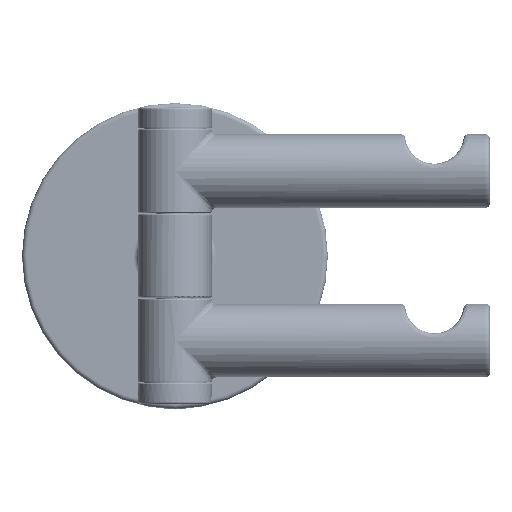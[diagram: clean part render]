
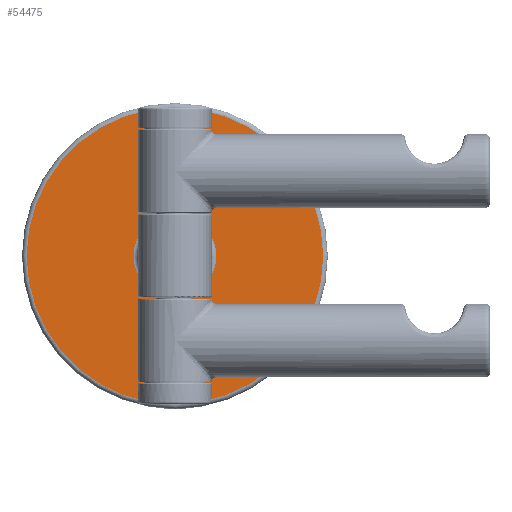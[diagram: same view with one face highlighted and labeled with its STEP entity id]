
A CAD part, top view. The second image highlights one B-rep face of the part: STEP entity #54475.
In plain terms, the highlighted planar face has unit normal (0, 0, 1) as drawn and (1, 0, 0) by its records, which use the part's own axes.
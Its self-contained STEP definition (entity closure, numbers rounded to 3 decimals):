
#436 = CARTESIAN_POINT ( 'NONE',  ( 8., 32., 0. ) ) ;
#750 = CIRCLE ( 'NONE', #16250, 8.94 ) ;
#1706 = AXIS2_PLACEMENT_3D ( 'NONE', #46402, #37018, #47439 ) ;
#3074 = VERTEX_POINT ( 'NONE', #7720 ) ;
#3839 = CARTESIAN_POINT ( 'NONE',  ( 8., 0., 0. ) ) ;
#5095 = CARTESIAN_POINT ( 'NONE',  ( 8., 8.94, 0. ) ) ;
#6585 = EDGE_LOOP ( 'NONE', ( #31163, #36456 ) ) ;
#7720 = CARTESIAN_POINT ( 'NONE',  ( 8., -8.94, 0. ) ) ;
#8208 = CARTESIAN_POINT ( 'NONE',  ( 8., 0., 0. ) ) ;
#10975 = ORIENTED_EDGE ( 'NONE', *, *, #34341, .F. ) ;
#13915 = CARTESIAN_POINT ( 'NONE',  ( 8., 0., 0. ) ) ;
#14253 = EDGE_LOOP ( 'NONE', ( #29440, #10975 ) ) ;
#14480 = VERTEX_POINT ( 'NONE', #5095 ) ;
#14825 = FACE_OUTER_BOUND ( 'NONE', #6585, .T. ) ;
#15494 = AXIS2_PLACEMENT_3D ( 'NONE', #8208, #39115, #38777 ) ;
#15553 = DIRECTION ( 'NONE',  ( 0., -1., 0. ) ) ;
#16250 = AXIS2_PLACEMENT_3D ( 'NONE', #13915, #19140, #15553 ) ;
#19140 = DIRECTION ( 'NONE',  ( 1., 0., 0. ) ) ;
#23049 = DIRECTION ( 'NONE',  ( 0., 1., 0. ) ) ;
#25268 = PLANE ( 'NONE',  #1706 ) ;
#29440 = ORIENTED_EDGE ( 'NONE', *, *, #58356, .F. ) ;
#29914 = CIRCLE ( 'NONE', #15494, 32. ) ;
#31027 = EDGE_CURVE ( 'NONE', #45052, #65412, #64925, .T. ) ;
#31163 = ORIENTED_EDGE ( 'NONE', *, *, #31027, .F. ) ;
#34341 = EDGE_CURVE ( 'NONE', #3074, #14480, #750, .T. ) ;
#36456 = ORIENTED_EDGE ( 'NONE', *, *, #51255, .F. ) ;
#37018 = DIRECTION ( 'NONE',  ( 1., 0., 0. ) ) ;
#38777 = DIRECTION ( 'NONE',  ( 0., 1., 0. ) ) ;
#39115 = DIRECTION ( 'NONE',  ( -1., 0., 0. ) ) ;
#40964 = DIRECTION ( 'NONE',  ( -1., 0., 0. ) ) ;
#41213 = FACE_BOUND ( 'NONE', #14253, .T. ) ;
#41640 = AXIS2_PLACEMENT_3D ( 'NONE', #60778, #60429, #23049 ) ;
#45052 = VERTEX_POINT ( 'NONE', #66416 ) ;
#46402 = CARTESIAN_POINT ( 'NONE',  ( 8., 0., 0. ) ) ;
#47439 = DIRECTION ( 'NONE',  ( 0., 1., 0. ) ) ;
#51255 = EDGE_CURVE ( 'NONE', #65412, #45052, #29914, .T. ) ;
#52794 = AXIS2_PLACEMENT_3D ( 'NONE', #3839, #40964, #56534 ) ;
#53801 = CIRCLE ( 'NONE', #41640, 8.94 ) ;
#54475 = ADVANCED_FACE ( 'NONE', ( #41213, #14825 ), #25268, .T. ) ;
#56534 = DIRECTION ( 'NONE',  ( 0., -1., 0. ) ) ;
#58356 = EDGE_CURVE ( 'NONE', #14480, #3074, #53801, .T. ) ;
#60429 = DIRECTION ( 'NONE',  ( 1., 0., 0. ) ) ;
#60778 = CARTESIAN_POINT ( 'NONE',  ( 8., 0., 0. ) ) ;
#64925 = CIRCLE ( 'NONE', #52794, 32. ) ;
#65412 = VERTEX_POINT ( 'NONE', #436 ) ;
#66416 = CARTESIAN_POINT ( 'NONE',  ( 8., -32., 0. ) ) ;
